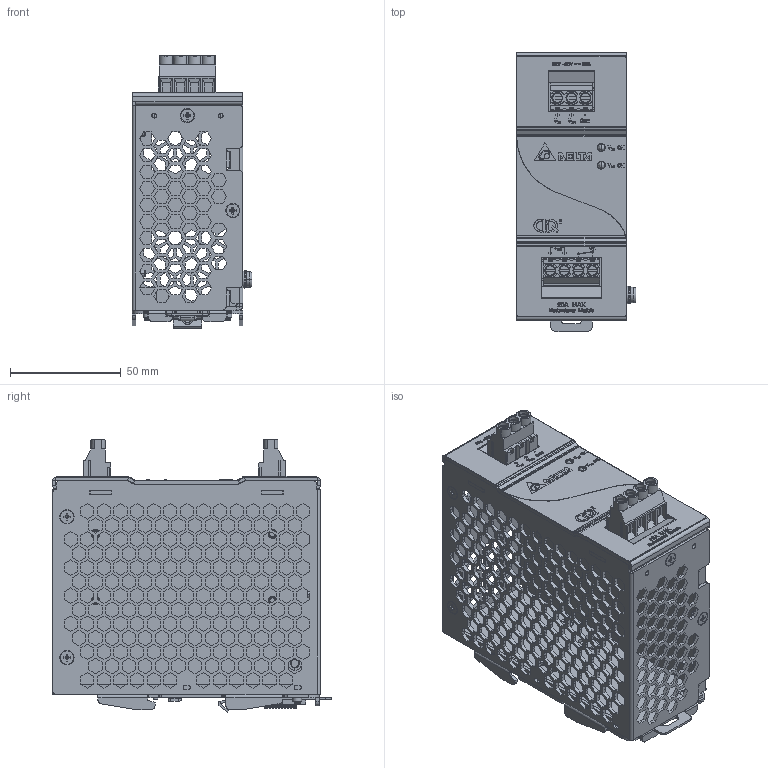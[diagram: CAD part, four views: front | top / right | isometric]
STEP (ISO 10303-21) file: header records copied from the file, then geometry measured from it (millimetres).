
FILE_DESCRIPTION((''),'2;1');
FILE_NAME('DRR-20A_ASM','2012-04-20T',('Manop.Pr'),(''),'PRO/ENGINEER BY PARAMETRIC TECHNOLOGY CORPORATION, 2010180','PRO/ENGINEER BY PARAMETRIC TECHNOLOGY CORPORATION, 2010180','');
FILE_SCHEMA(('CONFIG_CONTROL_DESIGN','SHAPE_APPEARANCE_LAYERS_GROUPS'));
Products named in the file (22): 330306690101; 330240380202; 330306680000; 326307440101; 3461303000; 3460088100; 3462026200; ASSY_LATCH_50X100_ASM; 2958044600_PWB; EE_LED11-21_2300221331; 2968120601_DCT-1206; 2968121401_DCT-1214; 3073461846; 3073461946; ASSY_PWB_ASM; 3268209100; 3202315200; 3105343000; 3100000600; 3100000800; 3100020600; DRR-20A_ASM
Assembly tree (32 placements, depth 3):
  DRR-20A_ASM
    330306690101
    330240380202
    330306680000
    326307440101
    ASSY_LATCH_50X100_ASM
      3461303000
      3460088100
      3462026200
    ASSY_PWB_ASM
      2958044600_PWB
      EE_LED11-21_2300221331  x2
      2968120601_DCT-1206
      2968121401_DCT-1214
      3073461846
      3073461946
    3268209100
    3202315200
    3105343000
    3100000600  x5
    3100000800  x4
    3100020600  x4
Bounding box: 54.15 x 126 x 123.24 mm (x, y, z)
Volume: 81938.9 mm3; surface area: 136959.2 mm2
Topology: 32 solids, 32 shells, 6319 faces, 17170 edges, 11063 vertices
Faces by surface type: plane 4626, extrusion 696, cylinder 671, cone 150, bspline 132, torus 28, sphere 16
Entity records: 243565 total; most frequent: CARTESIAN_POINT 45790, ORIENTED_EDGE 32050, DIRECTION 26762, PRESENTATION_STYLE_ASSIGNMENT 16186, STYLED_ITEM 16046, CURVE_STYLE 16025, EDGE_CURVE 16025, VECTOR 13844
